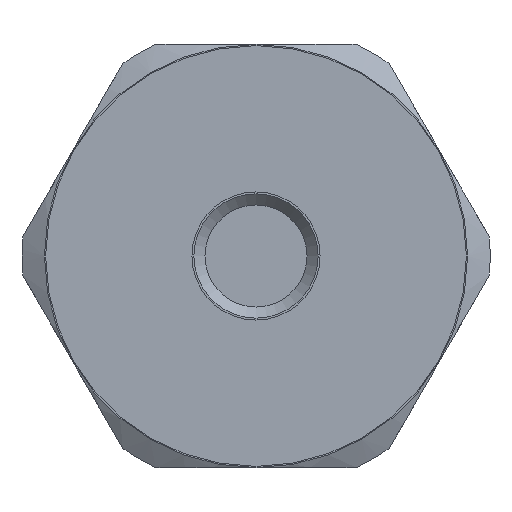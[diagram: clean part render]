
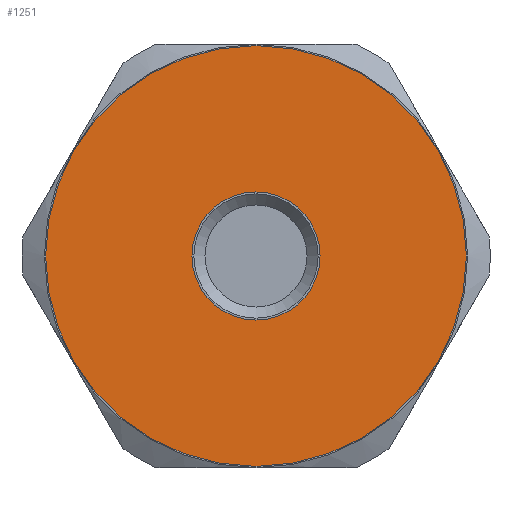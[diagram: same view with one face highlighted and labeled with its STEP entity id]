
A CAD part, front view. The second image highlights one B-rep face of the part: STEP entity #1251.
In plain terms, the highlighted planar face has unit normal (0, -1, 0).
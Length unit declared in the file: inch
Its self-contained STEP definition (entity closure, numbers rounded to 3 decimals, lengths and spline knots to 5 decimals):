
#82=FACE_BOUND('',#323,.T.);
#102=PLANE('',#1436);
#238=FACE_OUTER_BOUND('',#322,.T.);
#322=EDGE_LOOP('',(#1123,#1124));
#323=EDGE_LOOP('',(#1125,#1126));
#487=CIRCLE('',#1383,0.1325);
#488=CIRCLE('',#1384,0.1325);
#515=CIRCLE('',#1437,0.435);
#516=CIRCLE('',#1438,0.435);
#594=VERTEX_POINT('',#2122);
#595=VERTEX_POINT('',#2123);
#634=VERTEX_POINT('',#2301);
#635=VERTEX_POINT('',#2302);
#740=EDGE_CURVE('',#594,#595,#487,.T.);
#741=EDGE_CURVE('',#595,#594,#488,.T.);
#805=EDGE_CURVE('',#634,#635,#515,.T.);
#806=EDGE_CURVE('',#635,#634,#516,.T.);
#1123=ORIENTED_EDGE('',*,*,#805,.F.);
#1124=ORIENTED_EDGE('',*,*,#806,.F.);
#1125=ORIENTED_EDGE('',*,*,#740,.T.);
#1126=ORIENTED_EDGE('',*,*,#741,.T.);
#1251=ADVANCED_FACE('',(#238,#82),#102,.T.);
#1383=AXIS2_PLACEMENT_3D('',#2124,#1690,#1691);
#1384=AXIS2_PLACEMENT_3D('',#2125,#1692,#1693);
#1436=AXIS2_PLACEMENT_3D('',#2300,#1809,#1810);
#1437=AXIS2_PLACEMENT_3D('',#2303,#1811,#1812);
#1438=AXIS2_PLACEMENT_3D('',#2304,#1813,#1814);
#1690=DIRECTION('center_axis',(0.,1.,0.));
#1691=DIRECTION('ref_axis',(1.,0.,0.));
#1692=DIRECTION('center_axis',(0.,1.,0.));
#1693=DIRECTION('ref_axis',(1.,0.,0.));
#1809=DIRECTION('center_axis',(0.,-1.,0.));
#1810=DIRECTION('ref_axis',(0.,0.,-1.));
#1811=DIRECTION('center_axis',(0.,1.,0.));
#1812=DIRECTION('ref_axis',(1.,0.,0.));
#1813=DIRECTION('center_axis',(0.,1.,0.));
#1814=DIRECTION('ref_axis',(1.,0.,0.));
#2122=CARTESIAN_POINT('',(0.1325,-0.265,0.));
#2123=CARTESIAN_POINT('',(-0.1325,-0.265,0.));
#2124=CARTESIAN_POINT('Origin',(0.,-0.265,0.));
#2125=CARTESIAN_POINT('Origin',(0.,-0.265,0.));
#2300=CARTESIAN_POINT('Origin',(-0.435,-0.265,0.));
#2301=CARTESIAN_POINT('',(-0.435,-0.265,0.));
#2302=CARTESIAN_POINT('',(0.435,-0.265,0.));
#2303=CARTESIAN_POINT('Origin',(0.,-0.265,0.));
#2304=CARTESIAN_POINT('Origin',(0.,-0.265,0.));
